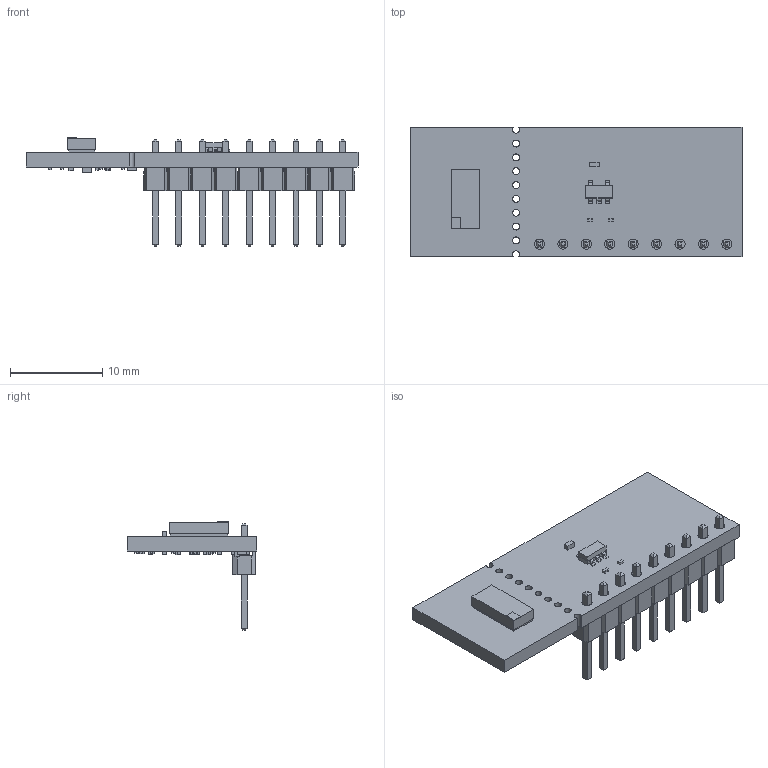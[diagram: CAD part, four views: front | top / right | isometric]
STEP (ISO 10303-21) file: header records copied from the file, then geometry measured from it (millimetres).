
FILE_DESCRIPTION(('Open CASCADE Model'),'2;1');
FILE_NAME('Open CASCADE Shape Model','2021-02-03T14:32:31',('Author'),( 'Open CASCADE'),'Open CASCADE STEP processor 6.8','Open CASCADE 6.8' ,'Unknown');
FILE_SCHEMA(('AUTOMOTIVE_DESIGN { 1 0 10303 214 1 1 1 1 }'));
Length unit declared in the file: millimetre
Products named in the file (60): PCB; Board; Open CASCADE STEP translator 6.8 2.1.1; Open CASCADE STEP translator 6.8 2.1.1.1; U2; 6522030416; Extruded; 6536443392; 6536443632; R1; 6527951600; C1; 6514999760; R8; 6510711392; 6527944240; R9; U1; CircuitWorks-SOT-23-5; R6; C4; 5684422640; 5684422880; C3; J1; 61300911121_Download_STP_61300911121_rev1; 6130xx11121_PIN; 61300911121; R17; 6510378128; R16; R15; R14; R13; R12; R11; R10; R7; C2; 6527948320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
Assembly tree (95 placements, depth 4):
  PCB
    Board
      Open CASCADE STEP translator 6.8 2.1.1
        Open CASCADE STEP translator 6.8 2.1.1.1
    U2
      6522030416
        Extruded
      6536443392
        Extruded
      6536443632
        Extruded
    R1
      6527951600
        Extruded
    C1
      6514999760
        Extruded
    R8
      6510711392
        Extruded
      6527944240  x2
        Extruded
    R9
      6510711392
        Extruded
      6527944240  x2
        Extruded
    U1
      CircuitWorks-SOT-23-5
    R6
      6527944240  x2
        Extruded
      6510711392
        Extruded
    C4
      5684422640  x2
        Extruded
      5684422880
        Extruded
    C3
      6514999760
        Extruded
    J1
      61300911121_Download_STP_61300911121_rev1
        6130xx11121_PIN  x9
        61300911121
    R17
      6510378128
        Extruded
    R16
      6510378128
        Extruded
    R15
      6510378128
        Extruded
    R14
      6510378128
        Extruded
    R13
      6510378128
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Bounding box: 36 x 14 x 11.72 mm (x, y, z)
Volume: 976.3 mm3; surface area: 1994.7 mm2
Topology: 54 solids, 54 shells, 624 faces, 1462 edges, 946 vertices
Faces by surface type: plane 571, cylinder 53
Full cylindrical faces by diameter (mm): 0.3 x12, 0.75 x8, 1.1 x9
Entity records: 13162 total; most frequent: CARTESIAN_POINT 1936, DIRECTION 1888, ORIENTED_EDGE 1804, EDGE_CURVE 902, LINE 796, VECTOR 796, VERTEX_POINT 594, AXIS2_PLACEMENT_3D 546
